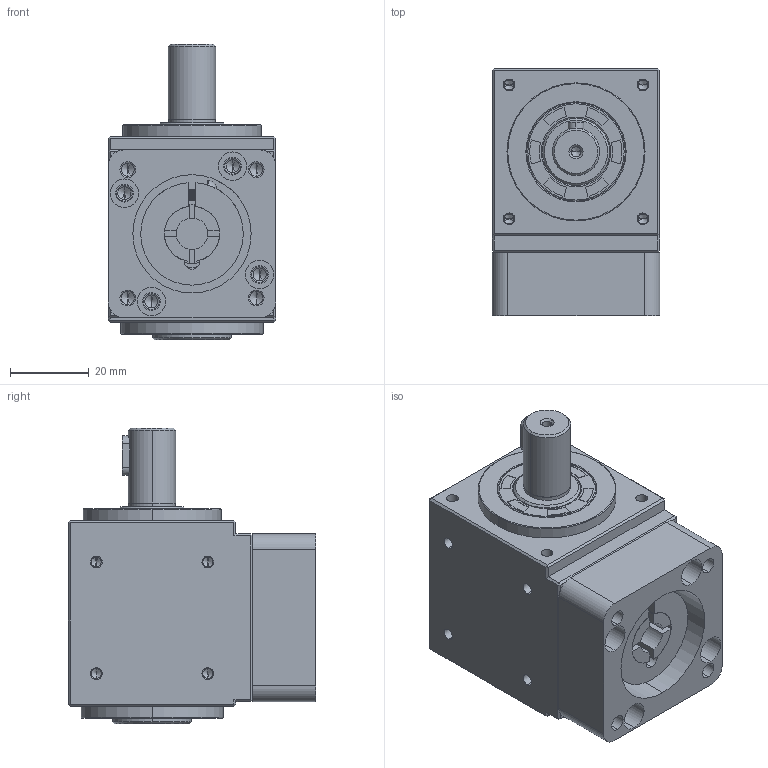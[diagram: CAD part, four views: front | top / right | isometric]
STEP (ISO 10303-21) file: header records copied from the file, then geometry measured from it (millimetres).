
FILE_DESCRIPTION (( 'STEP AP214' ), '1' );
FILE_NAME ('RS42-2(8-30-46-M4).STEP', '2018-12-05T04:08:03', ( '' ), ( '' ), 'SwSTEP 2.0', 'SolidWorks 2016', '' );
FILE_SCHEMA (( 'AUTOMOTIVE_DESIGN' ));
Length unit declared in the file: millimetre
Products named in the file (8): RS42-2(8-30-46-M4); RS42-(12x20-4x10); R42-2(30-46-M4); R42-17x25x4; SN42-26x14x11-M4; R42-20x32x5; R42; R42-2-(8)
Assembly tree (7 placements, depth 2):
  RS42-2(8-30-46-M4)
    R42
    R42-2(30-46-M4)
    RS42-(12x20-4x10)
    R42-20x32x5
    R42-17x25x4
    SN42-26x14x11-M4
    R42-2-(8)
Bounding box: 42.5 x 62.75 x 75 mm (x, y, z)
Volume: 89730.6 mm3; surface area: 41920.5 mm2
Topology: 8 solids, 8 shells, 635 faces, 1497 edges, 881 vertices
Faces by surface type: cylinder 302, plane 141, cone 134, torus 36, bspline 22
Entity records: 30477 total; most frequent: CARTESIAN_POINT 15567, DIRECTION 2976, ORIENTED_EDGE 2874, EDGE_CURVE 1437, AXIS2_PLACEMENT_3D 1161, VERTEX_POINT 881, EDGE_LOOP 724, VECTOR 654
